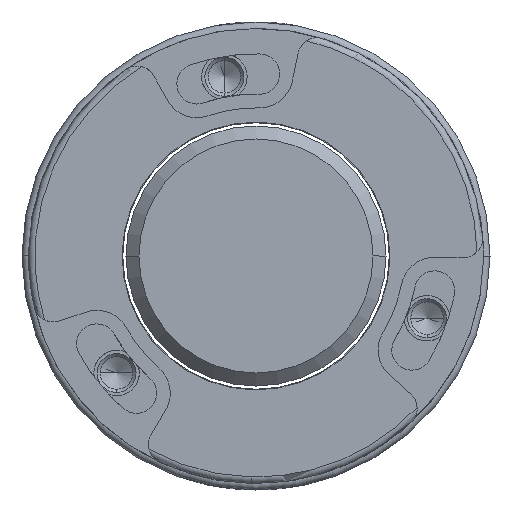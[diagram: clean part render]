
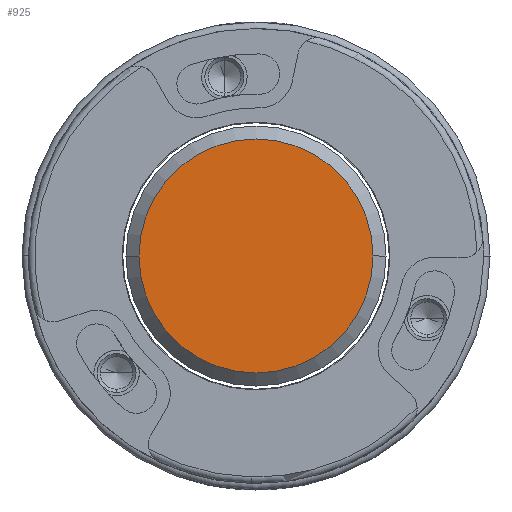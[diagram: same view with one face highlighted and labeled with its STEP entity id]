
A CAD part, left-side view. The second image highlights one B-rep face of the part: STEP entity #925.
In plain terms, the highlighted planar face has unit normal (-1, 0, 0).
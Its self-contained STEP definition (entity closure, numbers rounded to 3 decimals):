
#37 = DIRECTION ( 'NONE',  ( -1., 0., 0. ) ) ;
#203 = CARTESIAN_POINT ( 'NONE',  ( -10., 0., 0. ) ) ;
#260 = DIRECTION ( 'NONE',  ( 0., -1., 0. ) ) ;
#407 = EDGE_LOOP ( 'NONE', ( #3464, #616 ) ) ;
#616 = ORIENTED_EDGE ( 'NONE', *, *, #5611, .T. ) ;
#664 = DIRECTION ( 'NONE',  ( 0., -1., 0. ) ) ;
#915 = DIRECTION ( 'NONE',  ( -1., 0., 0. ) ) ;
#925 = ADVANCED_FACE ( 'NONE', ( #2234 ), #1966, .T. ) ;
#1071 = AXIS2_PLACEMENT_3D ( 'NONE', #4402, #915, #6120 ) ;
#1421 = DIRECTION ( 'NONE',  ( -1., 0., 0. ) ) ;
#1500 = AXIS2_PLACEMENT_3D ( 'NONE', #203, #1421, #260 ) ;
#1966 = PLANE ( 'NONE',  #1500 ) ;
#2234 = FACE_OUTER_BOUND ( 'NONE', #407, .T. ) ;
#2520 = CARTESIAN_POINT ( 'NONE',  ( -10., -9., 0. ) ) ;
#3038 = VERTEX_POINT ( 'NONE', #5689 ) ;
#3464 = ORIENTED_EDGE ( 'NONE', *, *, #3734, .T. ) ;
#3474 = CARTESIAN_POINT ( 'NONE',  ( -10., 0., 0. ) ) ;
#3734 = EDGE_CURVE ( 'NONE', #3038, #6444, #3915, .T. ) ;
#3898 = AXIS2_PLACEMENT_3D ( 'NONE', #3474, #37, #664 ) ;
#3915 = CIRCLE ( 'NONE', #1071, 9. ) ;
#4402 = CARTESIAN_POINT ( 'NONE',  ( -10., 0., 0. ) ) ;
#5611 = EDGE_CURVE ( 'NONE', #6444, #3038, #7121, .T. ) ;
#5689 = CARTESIAN_POINT ( 'NONE',  ( -10., 9., 0. ) ) ;
#6120 = DIRECTION ( 'NONE',  ( 0., -1., 0. ) ) ;
#6444 = VERTEX_POINT ( 'NONE', #2520 ) ;
#7121 = CIRCLE ( 'NONE', #3898, 9. ) ;
